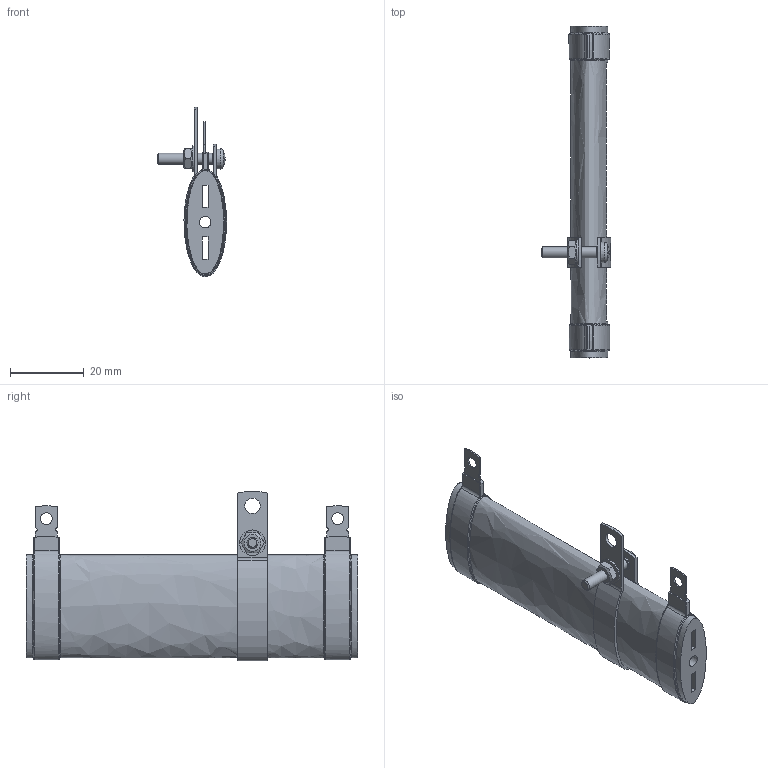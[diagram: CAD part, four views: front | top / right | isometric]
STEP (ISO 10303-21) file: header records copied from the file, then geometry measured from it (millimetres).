
FILE_DESCRIPTION(/* description */ (''),/* implementation_level */ '2;1');
FILE_NAME(/* name */ 'C:\_Vault\Dati\CATALOGO\RCE\RCER-RSER 31-91\CER0063.stp',/* time_stamp */ '2014-01-22T16:29:38+01:00',/* author */ ('stefano'),/* organization */ (''),/* preprocessor_version */ 'ST-DEVELOPER v15.2',/* originating_system */ 'Autodesk Inventor 2014',/* authorisation */ '');
FILE_SCHEMA (('AUTOMOTIVE_DESIGN { 1 0 10303 214 3 1 1 }'));
Length unit declared in the file: millimetre
Products named in the file (1): CER0063
Bounding box: 18.8 x 90 x 46 mm (x, y, z)
Volume: 18031.3 mm3; surface area: 11439.4 mm2
Topology: 61 solids, 61 shells, 569 faces, 1234 edges, 764 vertices
Faces by surface type: plane 410, bspline 90, cylinder 39, cone 16, torus 13, sphere 1
Full cylindrical faces by diameter (mm): 2.729 x1, 3 x2, 3.1 x1, 3.2 x3, 4.2 x3, 7 x1
Entity records: 17867 total; most frequent: CARTESIAN_POINT 5206, ORIENTED_EDGE 2538, DIRECTION 2413, EDGE_CURVE 1207, AXIS2_PLACEMENT_3D 842, VERTEX_POINT 761, LINE 729, VECTOR 729
